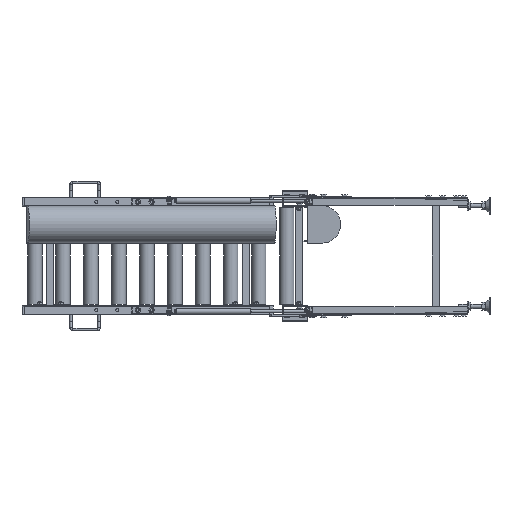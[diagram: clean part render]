
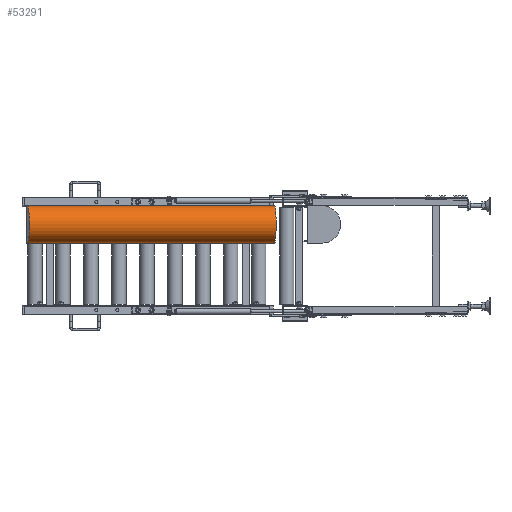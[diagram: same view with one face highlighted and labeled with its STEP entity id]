
A CAD part, left-side view. The second image highlights one B-rep face of the part: STEP entity #53291.
In plain terms, the highlighted cylindrical face has radius 66.89 mm (diameter 133.78 mm), a partial arc.
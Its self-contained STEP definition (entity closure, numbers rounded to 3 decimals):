
#514 = DIRECTION ( 'NONE',  ( -0.087, 0.996, 0. ) ) ;
#4531 = CARTESIAN_POINT ( 'NONE',  ( -78.917, 18.539, 179.5 ) ) ;
#5947 = AXIS2_PLACEMENT_3D ( 'NONE', #19802, #54294, #42519 ) ;
#7128 = ORIENTED_EDGE ( 'NONE', *, *, #71620, .T. ) ;
#10291 = ORIENTED_EDGE ( 'NONE', *, *, #55884, .T. ) ;
#10292 = CARTESIAN_POINT ( 'NONE',  ( -63.444, -158.438, 45.72 ) ) ;
#12549 = CYLINDRICAL_SURFACE ( 'NONE', #5947, 66.89 ) ;
#12868 = LINE ( 'NONE', #10292, #63766 ) ;
#14389 = FACE_OUTER_BOUND ( 'NONE', #46988, .T. ) ;
#19802 = CARTESIAN_POINT ( 'NONE',  ( -63.444, -158.438, 112.61 ) ) ;
#19868 = EDGE_CURVE ( 'NONE', #72553, #29419, #54238, .T. ) ;
#20115 = VERTEX_POINT ( 'NONE', #60802 ) ;
#26376 = VECTOR ( 'NONE', #514, 1000. ) ;
#29419 = VERTEX_POINT ( 'NONE', #55272 ) ;
#32629 = LINE ( 'NONE', #62866, #26376 ) ;
#38673 = EDGE_CURVE ( 'NONE', #29419, #20115, #12868, .T. ) ;
#42519 = DIRECTION ( 'NONE',  ( 0., 0., 1. ) ) ;
#46988 = EDGE_LOOP ( 'NONE', ( #60237, #7128, #10291, #47992 ) ) ;
#47992 = ORIENTED_EDGE ( 'NONE', *, *, #38673, .F. ) ;
#48580 = AXIS2_PLACEMENT_3D ( 'NONE', #63065, #69020, #58066 ) ;
#52407 = DIRECTION ( 'NONE',  ( 0., 0., 1. ) ) ;
#52524 = AXIS2_PLACEMENT_3D ( 'NONE', #68827, #69062, #52407 ) ;
#53291 = ADVANCED_FACE ( 'NONE', ( #14389 ), #12549, .T. ) ;
#54238 = CIRCLE ( 'NONE', #48580, 66.89 ) ;
#54294 = DIRECTION ( 'NONE',  ( -0.087, 0.996, 0. ) ) ;
#55196 = CARTESIAN_POINT ( 'NONE',  ( -155.735, 897.187, 179.5 ) ) ;
#55272 = CARTESIAN_POINT ( 'NONE',  ( -78.917, 18.539, 45.72 ) ) ;
#55884 = EDGE_CURVE ( 'NONE', #65122, #20115, #69173, .T. ) ;
#58066 = DIRECTION ( 'NONE',  ( 0., 0., -1. ) ) ;
#60237 = ORIENTED_EDGE ( 'NONE', *, *, #19868, .F. ) ;
#60802 = CARTESIAN_POINT ( 'NONE',  ( -155.735, 897.187, 45.72 ) ) ;
#61903 = DIRECTION ( 'NONE',  ( -0.087, 0.996, 0. ) ) ;
#62866 = CARTESIAN_POINT ( 'NONE',  ( -63.444, -158.438, 179.5 ) ) ;
#63065 = CARTESIAN_POINT ( 'NONE',  ( -78.917, 18.539, 112.61 ) ) ;
#63766 = VECTOR ( 'NONE', #61903, 1000. ) ;
#65122 = VERTEX_POINT ( 'NONE', #55196 ) ;
#68827 = CARTESIAN_POINT ( 'NONE',  ( -155.735, 897.187, 112.61 ) ) ;
#69020 = DIRECTION ( 'NONE',  ( 0.087, -0.996, 0. ) ) ;
#69062 = DIRECTION ( 'NONE',  ( 0.087, -0.996, 0. ) ) ;
#69173 = CIRCLE ( 'NONE', #52524, 66.89 ) ;
#71620 = EDGE_CURVE ( 'NONE', #72553, #65122, #32629, .T. ) ;
#72553 = VERTEX_POINT ( 'NONE', #4531 ) ;
